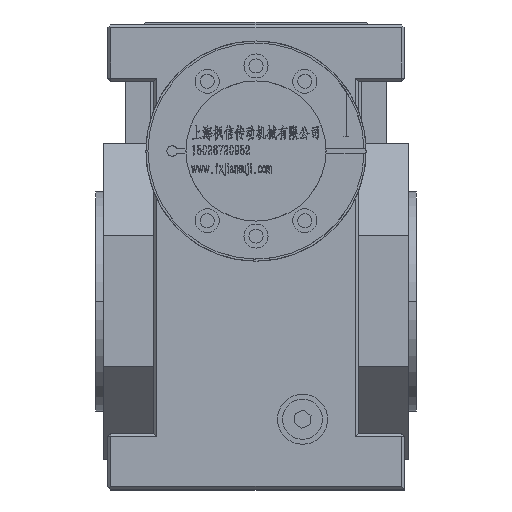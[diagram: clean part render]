
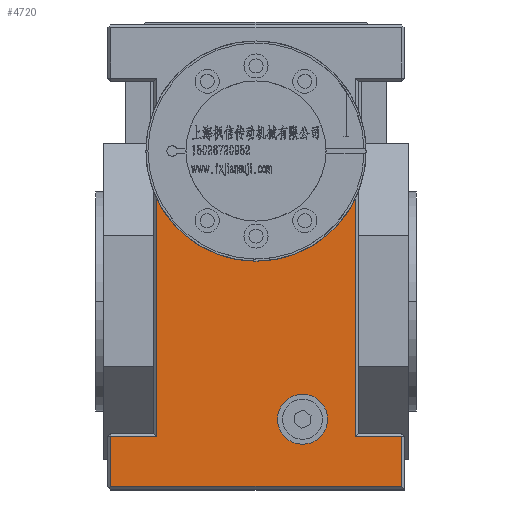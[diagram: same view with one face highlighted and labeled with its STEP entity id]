
A CAD part, top view. The second image highlights one B-rep face of the part: STEP entity #4720.
In plain terms, the highlighted planar face has unit normal (0, 0, 1).
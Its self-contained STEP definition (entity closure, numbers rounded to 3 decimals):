
#395 = EDGE_CURVE ( 'NONE', #99027, #8152, #62721, .T. ) ;
#792 = CARTESIAN_POINT ( 'NONE',  ( 0., 75., 104. ) ) ;
#1980 = EDGE_CURVE ( 'NONE', #65053, #4025, #6505, .T. ) ;
#2979 = FACE_OUTER_BOUND ( 'NONE', #88891, .T. ) ;
#4025 = VERTEX_POINT ( 'NONE', #107842 ) ;
#4124 = CARTESIAN_POINT ( 'NONE',  ( -72.5, -67.5, 104. ) ) ;
#4496 = LINE ( 'NONE', #21640, #77442 ) ;
#4586 = CARTESIAN_POINT ( 'NONE',  ( -49.5, -67.5, 104. ) ) ;
#4720 = ADVANCED_FACE ( 'NONE', ( #88738, #2979 ), #71023, .F. ) ;
#6505 = LINE ( 'NONE', #60252, #10417 ) ;
#6691 = EDGE_CURVE ( 'NONE', #112498, #113038, #42505, .T. ) ;
#7450 = EDGE_LOOP ( 'NONE', ( #49663, #110672 ) ) ;
#8152 = VERTEX_POINT ( 'NONE', #20939 ) ;
#9490 = EDGE_CURVE ( 'NONE', #8152, #65053, #59840, .T. ) ;
#10417 = VECTOR ( 'NONE', #84261, 1000. ) ;
#10421 = DIRECTION ( 'NONE',  ( -1., 0., 0. ) ) ;
#10748 = EDGE_CURVE ( 'NONE', #91919, #107967, #103115, .T. ) ;
#11528 = CIRCLE ( 'NONE', #20650, 55. ) ;
#12450 = VECTOR ( 'NONE', #35855, 1000. ) ;
#15090 = ORIENTED_EDGE ( 'NONE', *, *, #92619, .F. ) ;
#15640 = CARTESIAN_POINT ( 'NONE',  ( 10.762, -59., 104. ) ) ;
#16351 = CARTESIAN_POINT ( 'NONE',  ( 72.5, -66., 104. ) ) ;
#16935 = VECTOR ( 'NONE', #62236, 1000. ) ;
#17918 = VECTOR ( 'NONE', #95273, 1000. ) ;
#18481 = DIRECTION ( 'NONE',  ( 0., 0., 1. ) ) ;
#20093 = DIRECTION ( 'NONE',  ( 1., 0., 0. ) ) ;
#20650 = AXIS2_PLACEMENT_3D ( 'NONE', #792, #18481, #90512 ) ;
#20939 = CARTESIAN_POINT ( 'NONE',  ( 72.5, -92.5, 104. ) ) ;
#21640 = CARTESIAN_POINT ( 'NONE',  ( -72.5, 138., 104. ) ) ;
#23679 = CARTESIAN_POINT ( 'NONE',  ( -49.5, -66., 104. ) ) ;
#25677 = LINE ( 'NONE', #61125, #16935 ) ;
#26079 = AXIS2_PLACEMENT_3D ( 'NONE', #106409, #97849, #20093 ) ;
#29328 = CARTESIAN_POINT ( 'NONE',  ( 49.5, 54.409, 104. ) ) ;
#29476 = ORIENTED_EDGE ( 'NONE', *, *, #83032, .T. ) ;
#30520 = ORIENTED_EDGE ( 'NONE', *, *, #32401, .T. ) ;
#30777 = DIRECTION ( 'NONE',  ( 0., -1., 0. ) ) ;
#32401 = EDGE_CURVE ( 'NONE', #104044, #99027, #4496, .T. ) ;
#32424 = AXIS2_PLACEMENT_3D ( 'NONE', #101714, #102274, #51413 ) ;
#35855 = DIRECTION ( 'NONE',  ( 1., 0., 0. ) ) ;
#36149 = CARTESIAN_POINT ( 'NONE',  ( 74., 138., 104. ) ) ;
#36293 = CARTESIAN_POINT ( 'NONE',  ( 49.5, 51.026, 104. ) ) ;
#36696 = VECTOR ( 'NONE', #58580, 1000. ) ;
#42505 = CIRCLE ( 'NONE', #26079, 12.5 ) ;
#48718 = ORIENTED_EDGE ( 'NONE', *, *, #395, .T. ) ;
#48840 = ORIENTED_EDGE ( 'NONE', *, *, #51412, .T. ) ;
#49292 = CARTESIAN_POINT ( 'NONE',  ( -49.5, 51.026, 104. ) ) ;
#49440 = ORIENTED_EDGE ( 'NONE', *, *, #9490, .T. ) ;
#49663 = ORIENTED_EDGE ( 'NONE', *, *, #6691, .F. ) ;
#51412 = EDGE_CURVE ( 'NONE', #107967, #104044, #25677, .T. ) ;
#51413 = DIRECTION ( 'NONE',  ( 1., 0., 0. ) ) ;
#56003 = CARTESIAN_POINT ( 'NONE',  ( 72.5, -67.5, 104. ) ) ;
#56773 = AXIS2_PLACEMENT_3D ( 'NONE', #36149, #107582, #10421 ) ;
#58580 = DIRECTION ( 'NONE',  ( 0., -1., 0. ) ) ;
#59840 = LINE ( 'NONE', #16351, #69231 ) ;
#60252 = CARTESIAN_POINT ( 'NONE',  ( 74., -67.5, 104. ) ) ;
#61125 = CARTESIAN_POINT ( 'NONE',  ( -74., -67.5, 104. ) ) ;
#61604 = CARTESIAN_POINT ( 'NONE',  ( 74., -92.5, 104. ) ) ;
#62236 = DIRECTION ( 'NONE',  ( -1., 0., 0. ) ) ;
#62721 = LINE ( 'NONE', #61604, #12450 ) ;
#64839 = ORIENTED_EDGE ( 'NONE', *, *, #1980, .T. ) ;
#65053 = VERTEX_POINT ( 'NONE', #56003 ) ;
#69231 = VECTOR ( 'NONE', #112970, 1000. ) ;
#71023 = PLANE ( 'NONE',  #56773 ) ;
#72375 = CARTESIAN_POINT ( 'NONE',  ( 35.762, -59., 104. ) ) ;
#72410 = VERTEX_POINT ( 'NONE', #36293 ) ;
#77442 = VECTOR ( 'NONE', #30777, 1000. ) ;
#82643 = EDGE_CURVE ( 'NONE', #113038, #112498, #103599, .T. ) ;
#83032 = EDGE_CURVE ( 'NONE', #4025, #72410, #103836, .T. ) ;
#84261 = DIRECTION ( 'NONE',  ( -1., 0., 0. ) ) ;
#88738 = FACE_BOUND ( 'NONE', #7450, .T. ) ;
#88891 = EDGE_LOOP ( 'NONE', ( #48718, #49440, #64839, #29476, #15090, #98997, #48840, #30520 ) ) ;
#90512 = DIRECTION ( 'NONE',  ( 0., 1., 0. ) ) ;
#91919 = VERTEX_POINT ( 'NONE', #49292 ) ;
#92619 = EDGE_CURVE ( 'NONE', #91919, #72410, #11528, .T. ) ;
#95273 = DIRECTION ( 'NONE',  ( 0., 1., 0. ) ) ;
#97849 = DIRECTION ( 'NONE',  ( 0., 0., 1. ) ) ;
#98997 = ORIENTED_EDGE ( 'NONE', *, *, #10748, .T. ) ;
#99027 = VERTEX_POINT ( 'NONE', #99838 ) ;
#99838 = CARTESIAN_POINT ( 'NONE',  ( -72.5, -92.5, 104. ) ) ;
#101714 = CARTESIAN_POINT ( 'NONE',  ( 23.262, -59., 104. ) ) ;
#102274 = DIRECTION ( 'NONE',  ( 0., 0., 1. ) ) ;
#103115 = LINE ( 'NONE', #23679, #36696 ) ;
#103599 = CIRCLE ( 'NONE', #32424, 12.5 ) ;
#103836 = LINE ( 'NONE', #29328, #17918 ) ;
#104044 = VERTEX_POINT ( 'NONE', #4124 ) ;
#106409 = CARTESIAN_POINT ( 'NONE',  ( 23.262, -59., 104. ) ) ;
#107582 = DIRECTION ( 'NONE',  ( 0., 0., -1. ) ) ;
#107842 = CARTESIAN_POINT ( 'NONE',  ( 49.5, -67.5, 104. ) ) ;
#107967 = VERTEX_POINT ( 'NONE', #4586 ) ;
#110672 = ORIENTED_EDGE ( 'NONE', *, *, #82643, .F. ) ;
#112498 = VERTEX_POINT ( 'NONE', #72375 ) ;
#112970 = DIRECTION ( 'NONE',  ( 0., 1., 0. ) ) ;
#113038 = VERTEX_POINT ( 'NONE', #15640 ) ;
